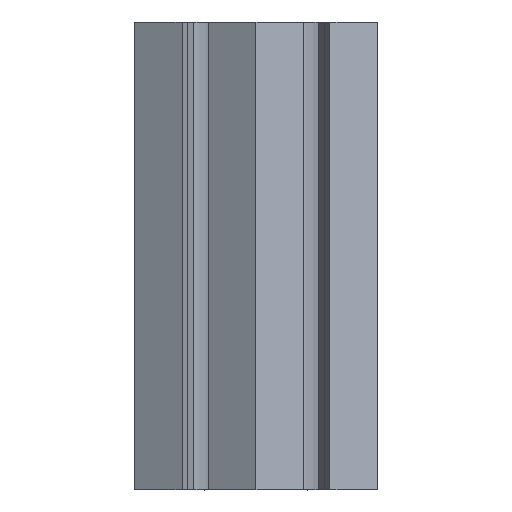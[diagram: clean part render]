
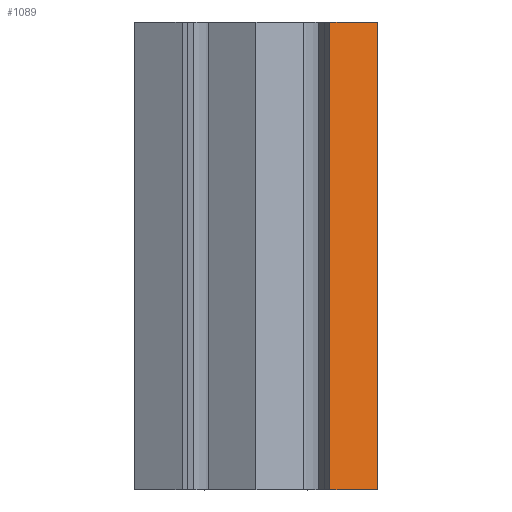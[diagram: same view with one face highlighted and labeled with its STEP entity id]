
A CAD part, top view. The second image highlights one B-rep face of the part: STEP entity #1089.
In plain terms, the highlighted planar face has unit normal (0.5, 0, 0.866).
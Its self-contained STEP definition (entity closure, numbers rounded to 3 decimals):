
#124=ORIENTED_EDGE('',*,*,#438,.T.);
#125=ORIENTED_EDGE('',*,*,#439,.F.);
#126=ORIENTED_EDGE('',*,*,#381,.F.);
#127=ORIENTED_EDGE('',*,*,#434,.T.);
#381=EDGE_CURVE('',#539,#540,#647,.T.);
#434=EDGE_CURVE('',#539,#591,#686,.T.);
#438=EDGE_CURVE('',#591,#594,#690,.T.);
#439=EDGE_CURVE('',#540,#594,#691,.T.);
#539=VERTEX_POINT('',#1547);
#540=VERTEX_POINT('',#1549);
#591=VERTEX_POINT('',#1653);
#594=VERTEX_POINT('',#1663);
#647=LINE('',#1548,#777);
#686=LINE('',#1654,#816);
#690=LINE('',#1662,#820);
#691=LINE('',#1664,#821);
#777=VECTOR('',#1246,1000.);
#816=VECTOR('',#1315,1000.);
#820=VECTOR('',#1323,1000.);
#821=VECTOR('',#1324,1000.);
#912=EDGE_LOOP('',(#124,#125,#126,#127));
#982=FACE_BOUND('',#912,.T.);
#1047=PLANE('',#1172);
#1089=ADVANCED_FACE('',(#982),#1047,.F.);
#1172=AXIS2_PLACEMENT_3D('',#1661,#1321,#1322);
#1246=DIRECTION('',(-0.866,0.,0.5));
#1315=DIRECTION('',(0.,1.,0.));
#1321=DIRECTION('',(-0.5,0.,-0.866));
#1322=DIRECTION('',(-0.866,0.,0.5));
#1323=DIRECTION('',(-0.866,0.,0.5));
#1324=DIRECTION('',(0.,1.,0.));
#1547=CARTESIAN_POINT('',(25.981,-50.,-15.));
#1548=CARTESIAN_POINT('',(25.981,-50.,-15.));
#1549=CARTESIAN_POINT('',(15.805,-50.,-9.125));
#1653=CARTESIAN_POINT('',(25.981,50.,-15.));
#1654=CARTESIAN_POINT('',(25.981,-50.,-15.));
#1661=CARTESIAN_POINT('',(25.981,-50.,-15.));
#1662=CARTESIAN_POINT('',(25.981,50.,-15.));
#1663=CARTESIAN_POINT('',(15.805,50.,-9.125));
#1664=CARTESIAN_POINT('',(15.805,-50.,-9.125));
